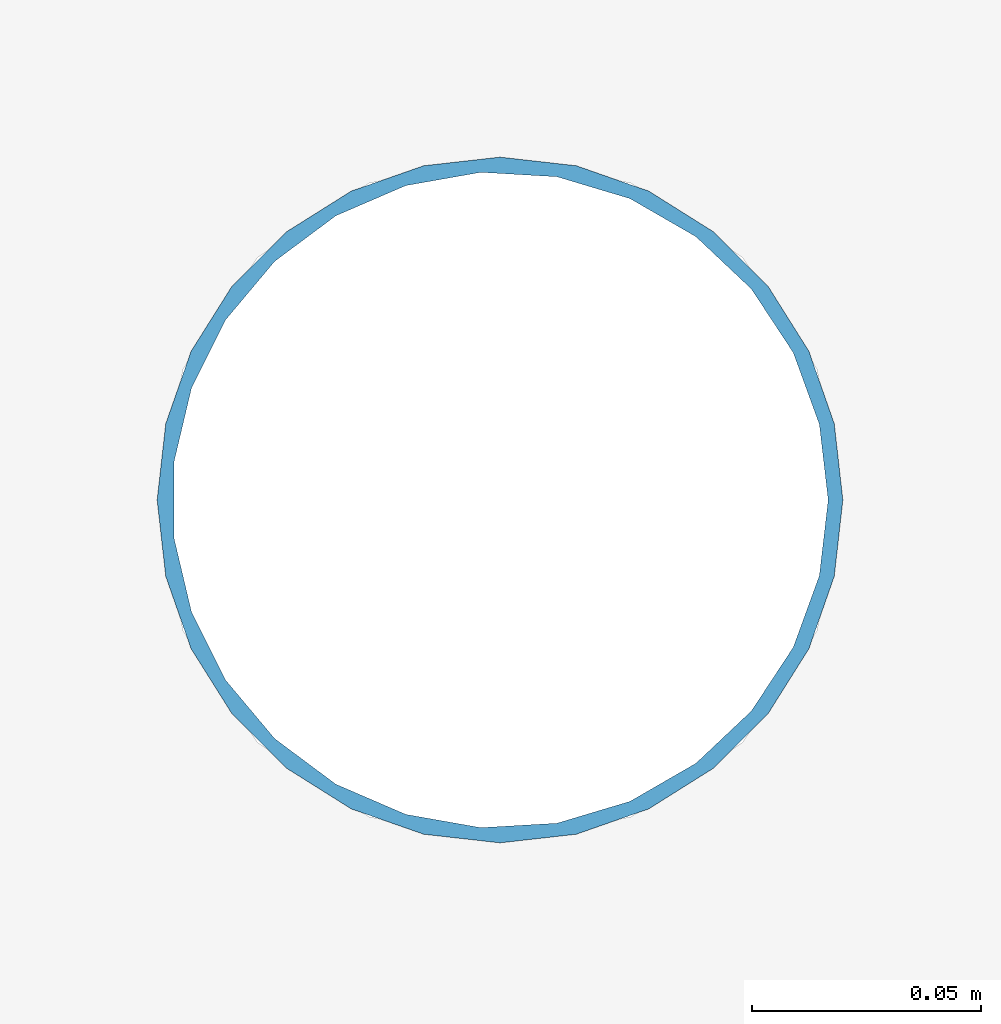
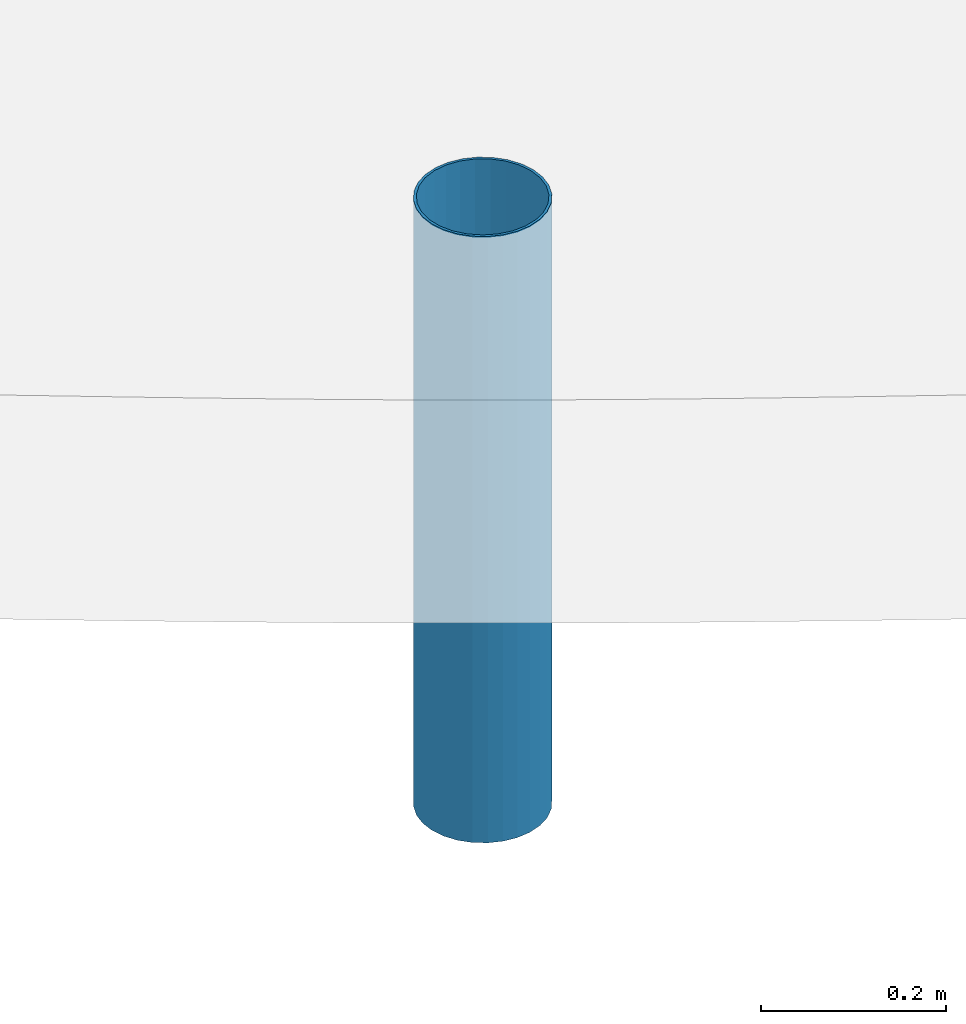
# One storey, part 1 of 5: 1 column.
"""IFC2X3 building model written with IfcOpenShell, lengths in millimetres."""

from ifc_helpers import new_model, entity, si_unit, converted_unit, derived_unit, direction, frame, frame_2d, origin, place, context, subcontext, project, spatial, hollow_circle, extrude, source, transform, mapped, material, type_object, type_shapes, element, save


model = new_model("IFC2X3")

# Units and contexts
model_context = context("Model", 3, precision=0.01, world=origin(), true_north=direction((6.123031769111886e-17, 1.0)))
body_context = subcontext(model_context, "Body", "Model", "MODEL_VIEW")
ifc_project = project(units=[si_unit("LENGTHUNIT", "METRE", prefix="MILLI"), si_unit("AREAUNIT", "SQUARE_METRE"), si_unit("VOLUMEUNIT", "CUBIC_METRE"), converted_unit("PLANEANGLEUNIT", "DEGREE", entity("IfcRatioMeasure", 0.017453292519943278), si_unit("PLANEANGLEUNIT", "RADIAN"), dimensions=[0, 0, 0, 0, 0, 0, 0]), si_unit("MASSUNIT", "GRAM", prefix="KILO"), derived_unit("MASSDENSITYUNIT", [(si_unit("MASSUNIT", "GRAM", prefix="KILO"), 1), (si_unit("LENGTHUNIT", "METRE"), -3)]), derived_unit("IONCONCENTRATIONUNIT", [(si_unit("MASSUNIT", "GRAM", prefix="KILO"), 1), (si_unit("LENGTHUNIT", "METRE"), -3)]), derived_unit("MOMENTOFINERTIAUNIT", [(si_unit("LENGTHUNIT", "METRE"), 4)]), si_unit("TIMEUNIT", "SECOND"), si_unit("FREQUENCYUNIT", "HERTZ"), si_unit("THERMODYNAMICTEMPERATUREUNIT", "DEGREE_CELSIUS"), derived_unit("THERMALTRANSMITTANCEUNIT", [(si_unit("MASSUNIT", "GRAM", prefix="KILO"), 1), (si_unit("THERMODYNAMICTEMPERATUREUNIT", "KELVIN"), -1), (si_unit("TIMEUNIT", "SECOND"), -3)]), derived_unit("THERMALCONDUCTANCEUNIT", [(si_unit("MASSUNIT", "GRAM", prefix="KILO"), 1), (si_unit("THERMODYNAMICTEMPERATUREUNIT", "KELVIN"), -1), (si_unit("TIMEUNIT", "SECOND"), -3), (si_unit("LENGTHUNIT", "METRE"), 1)]), derived_unit("VOLUMETRICFLOWRATEUNIT", [(si_unit("LENGTHUNIT", "METRE"), 3), (si_unit("TIMEUNIT", "SECOND"), -1)]), derived_unit("MASSFLOWRATEUNIT", [(si_unit("MASSUNIT", "GRAM", prefix="KILO"), 1), (si_unit("TIMEUNIT", "SECOND"), -1)]), derived_unit("ROTATIONALFREQUENCYUNIT", [(si_unit("TIMEUNIT", "SECOND"), -1)]), si_unit("ELECTRICCURRENTUNIT", "AMPERE"), si_unit("ELECTRICVOLTAGEUNIT", "VOLT"), si_unit("POWERUNIT", "WATT"), si_unit("FORCEUNIT", "NEWTON", prefix="KILO"), si_unit("ILLUMINANCEUNIT", "LUX"), si_unit("LUMINOUSFLUXUNIT", "LUMEN"), si_unit("LUMINOUSINTENSITYUNIT", "CANDELA"), derived_unit("USERDEFINED", [(si_unit("MASSUNIT", "GRAM", prefix="KILO"), -1), (si_unit("LENGTHUNIT", "METRE"), -2), (si_unit("TIMEUNIT", "SECOND"), 3), (si_unit("LUMINOUSFLUXUNIT", "LUMEN"), 1)]), derived_unit("USERDEFINED", [(si_unit("MASSUNIT", "GRAM", prefix="KILO"), 1), (si_unit("TIMEUNIT", "SECOND"), -3), (si_unit("LENGTHUNIT", "METRE"), 3), (si_unit("ELECTRICCURRENTUNIT", "AMPERE"), -2)]), derived_unit("SOUNDPOWERUNIT", [(si_unit("MASSUNIT", "GRAM", prefix="KILO"), 1), (si_unit("TIMEUNIT", "SECOND"), -3), (si_unit("LENGTHUNIT", "METRE"), 2)]), derived_unit("SOUNDPRESSUREUNIT", [(si_unit("MASSUNIT", "GRAM", prefix="KILO"), 1), (si_unit("LENGTHUNIT", "METRE"), -1), (si_unit("TIMEUNIT", "SECOND"), -2)]), derived_unit("LINEARVELOCITYUNIT", [(si_unit("LENGTHUNIT", "METRE"), 1), (si_unit("TIMEUNIT", "SECOND"), -1)]), si_unit("PRESSUREUNIT", "PASCAL"), derived_unit("USERDEFINED", [(si_unit("MASSUNIT", "GRAM", prefix="KILO"), 1), (si_unit("LENGTHUNIT", "METRE"), -2), (si_unit("TIMEUNIT", "SECOND"), -2)]), derived_unit("LINEARFORCEUNIT", [(si_unit("MASSUNIT", "GRAM", prefix="KILO"), 1), (si_unit("TIMEUNIT", "SECOND"), -2)]), derived_unit("PLANARFORCEUNIT", [(si_unit("MASSUNIT", "GRAM", prefix="KILO"), 1), (si_unit("LENGTHUNIT", "METRE"), -1), (si_unit("TIMEUNIT", "SECOND"), -2)]), derived_unit("SPECIFICHEATCAPACITYUNIT", [(si_unit("THERMODYNAMICTEMPERATUREUNIT", "KELVIN"), -1), (si_unit("LENGTHUNIT", "METRE"), 2), (si_unit("TIMEUNIT", "SECOND"), -2)]), derived_unit("HEATINGVALUEUNIT", [(si_unit("LENGTHUNIT", "METRE"), 2), (si_unit("TIMEUNIT", "SECOND"), -2)]), derived_unit("VAPORPERMEABILITYUNIT", [(si_unit("LENGTHUNIT", "METRE"), -1), (si_unit("TIMEUNIT", "SECOND"), 1)]), derived_unit("DYNAMICVISCOSITYUNIT", [(si_unit("MASSUNIT", "GRAM", prefix="KILO"), 1), (si_unit("TIMEUNIT", "SECOND"), -1), (si_unit("LENGTHUNIT", "METRE"), -1)]), derived_unit("THERMALEXPANSIONCOEFFICIENTUNIT", [(si_unit("THERMODYNAMICTEMPERATUREUNIT", "KELVIN"), -1)]), derived_unit("MODULUSOFELASTICITYUNIT", [(si_unit("MASSUNIT", "GRAM", prefix="KILO"), 1), (si_unit("LENGTHUNIT", "METRE"), -1), (si_unit("TIMEUNIT", "SECOND"), -2)]), derived_unit("ISOTHERMALMOISTURECAPACITYUNIT", [(si_unit("LENGTHUNIT", "METRE"), 3), (si_unit("MASSUNIT", "GRAM", prefix="KILO"), -1)]), derived_unit("MOISTUREDIFFUSIVITYUNIT", [(si_unit("TIMEUNIT", "SECOND"), -1), (si_unit("LENGTHUNIT", "METRE"), 2)])], contexts=[model_context])

# Site, building, storey
site_placement = place(None, origin())
site = spatial("IfcSite", under=ifc_project, at=site_placement, Name="IFCSITE", CompositionType="ELEMENT")
building_placement = place(site_placement, origin())
building = spatial("IfcBuilding", under=site, at=building_placement, CompositionType="ELEMENT")
storey_placement = place(building_placement, origin())
storey = spatial("IfcBuildingStorey", under=building, at=storey_placement, Name="Plan 01", CompositionType="ELEMENT", Elevation=0.0)

# Column
ifc_material = material(Name="Stål - S355")
column_type = type_object("IfcColumnType", Name="Søyle Sirkulær:KR 101.6x3.2", PredefinedType="COLUMN", material=ifc_material)
shared_shape = source(origin(), body_context, "Body", "SweptSolid", [
    extrude(hollow_circle(Radius=74.9999999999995, WallThickness=3.1999999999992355, at=frame_2d((-4.064717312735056e-15, 2.852902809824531e-13), x_axis=(1.0, 0.0))), frame((-0.200000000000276, -0.20000000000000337, -1000.0)), (0.0, 0.0, 1.0), 800.0),
])
type_shapes(column_type, [shared_shape])
column_placement = place(storey_placement, frame((33177.267294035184, 18718.611540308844, 0.0)))
element("IfcColumn", 1, at=column_placement, inside=storey, type_object=column_type, material=ifc_material, Name="Søyle Sirkulær:KR 101.6x3.2", ObjectType="Søyle Sirkulær:KR 101.6x3.2", context=body_context, shape_type="MappedRepresentation", body=[
    mapped(shared_shape, transform((0.0, 0.0, 0.0), scale=1.0)),
])

save(model, "model.ifc")
